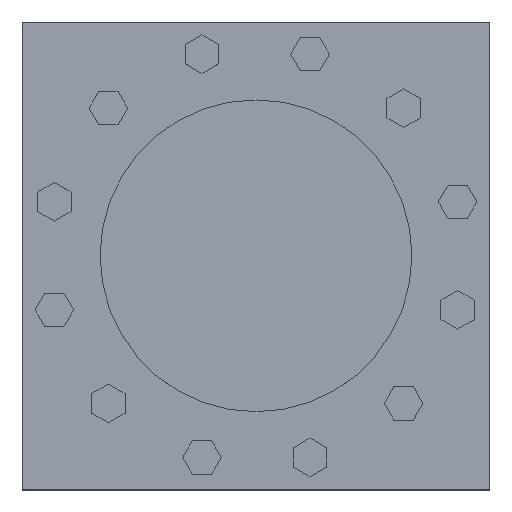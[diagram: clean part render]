
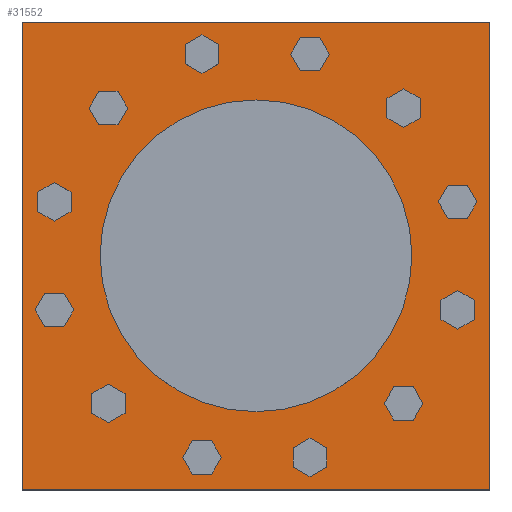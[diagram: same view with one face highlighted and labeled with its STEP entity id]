
A CAD part, top view. The second image highlights one B-rep face of the part: STEP entity #31552.
In plain terms, the highlighted planar face has unit normal (0, 0, 1).
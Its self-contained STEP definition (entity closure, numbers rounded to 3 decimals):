
#1652=LINE('',#45727,#3366);
#1656=LINE('',#45734,#3370);
#1659=LINE('',#45740,#3373);
#1661=LINE('',#45743,#3375);
#3366=VECTOR('',#37189,21.);
#3370=VECTOR('',#37195,21.);
#3373=VECTOR('',#37200,21.);
#3375=VECTOR('',#37204,21.);
#5082=PLANE('',#33735);
#5984=FACE_BOUND('',#8951,.T.);
#5985=FACE_BOUND('',#8952,.T.);
#5986=FACE_BOUND('',#8953,.T.);
#5987=FACE_BOUND('',#8954,.T.);
#5988=FACE_BOUND('',#8955,.T.);
#5989=FACE_BOUND('',#8956,.T.);
#5990=FACE_BOUND('',#8957,.T.);
#5991=FACE_BOUND('',#8958,.T.);
#5992=FACE_BOUND('',#8959,.T.);
#5993=FACE_BOUND('',#8960,.T.);
#5994=FACE_BOUND('',#8961,.T.);
#5995=FACE_BOUND('',#8962,.T.);
#6862=FACE_OUTER_BOUND('',#8950,.T.);
#8950=EDGE_LOOP('',(#20488,#20489,#20490,#20491));
#8951=EDGE_LOOP('',(#20492));
#8952=EDGE_LOOP('',(#20493));
#8953=EDGE_LOOP('',(#20494));
#8954=EDGE_LOOP('',(#20495));
#8955=EDGE_LOOP('',(#20496));
#8956=EDGE_LOOP('',(#20497));
#8957=EDGE_LOOP('',(#20498));
#8958=EDGE_LOOP('',(#20499));
#8959=EDGE_LOOP('',(#20500));
#8960=EDGE_LOOP('',(#20501));
#8961=EDGE_LOOP('',(#20502));
#8962=EDGE_LOOP('',(#20503));
#11872=CIRCLE('',#33696,0.563);
#11874=CIRCLE('',#33699,0.563);
#11876=CIRCLE('',#33702,0.563);
#11878=CIRCLE('',#33705,0.563);
#11880=CIRCLE('',#33708,0.563);
#11882=CIRCLE('',#33711,0.563);
#11884=CIRCLE('',#33714,0.563);
#11886=CIRCLE('',#33717,0.563);
#11888=CIRCLE('',#33720,0.563);
#11890=CIRCLE('',#33723,0.563);
#11892=CIRCLE('',#33726,0.563);
#11894=CIRCLE('',#33729,0.563);
#13392=VERTEX_POINT('',#45661);
#13394=VERTEX_POINT('',#45666);
#13396=VERTEX_POINT('',#45671);
#13398=VERTEX_POINT('',#45676);
#13400=VERTEX_POINT('',#45681);
#13402=VERTEX_POINT('',#45686);
#13404=VERTEX_POINT('',#45691);
#13406=VERTEX_POINT('',#45696);
#13408=VERTEX_POINT('',#45701);
#13410=VERTEX_POINT('',#45706);
#13412=VERTEX_POINT('',#45711);
#13414=VERTEX_POINT('',#45716);
#13418=VERTEX_POINT('',#45724);
#13419=VERTEX_POINT('',#45726);
#13421=VERTEX_POINT('',#45732);
#13423=VERTEX_POINT('',#45738);
#16270=EDGE_CURVE('',#13392,#13392,#11872,.T.);
#16272=EDGE_CURVE('',#13394,#13394,#11874,.T.);
#16274=EDGE_CURVE('',#13396,#13396,#11876,.T.);
#16276=EDGE_CURVE('',#13398,#13398,#11878,.T.);
#16278=EDGE_CURVE('',#13400,#13400,#11880,.T.);
#16280=EDGE_CURVE('',#13402,#13402,#11882,.T.);
#16282=EDGE_CURVE('',#13404,#13404,#11884,.T.);
#16284=EDGE_CURVE('',#13406,#13406,#11886,.T.);
#16286=EDGE_CURVE('',#13408,#13408,#11888,.T.);
#16288=EDGE_CURVE('',#13410,#13410,#11890,.T.);
#16290=EDGE_CURVE('',#13412,#13412,#11892,.T.);
#16292=EDGE_CURVE('',#13414,#13414,#11894,.T.);
#16296=EDGE_CURVE('',#13418,#13419,#1652,.T.);
#16300=EDGE_CURVE('',#13421,#13418,#1656,.T.);
#16303=EDGE_CURVE('',#13423,#13421,#1659,.T.);
#16305=EDGE_CURVE('',#13419,#13423,#1661,.T.);
#20488=ORIENTED_EDGE('',*,*,#16305,.F.);
#20489=ORIENTED_EDGE('',*,*,#16296,.F.);
#20490=ORIENTED_EDGE('',*,*,#16300,.F.);
#20491=ORIENTED_EDGE('',*,*,#16303,.F.);
#20492=ORIENTED_EDGE('',*,*,#16270,.T.);
#20493=ORIENTED_EDGE('',*,*,#16272,.T.);
#20494=ORIENTED_EDGE('',*,*,#16274,.T.);
#20495=ORIENTED_EDGE('',*,*,#16276,.T.);
#20496=ORIENTED_EDGE('',*,*,#16278,.T.);
#20497=ORIENTED_EDGE('',*,*,#16280,.T.);
#20498=ORIENTED_EDGE('',*,*,#16282,.T.);
#20499=ORIENTED_EDGE('',*,*,#16284,.T.);
#20500=ORIENTED_EDGE('',*,*,#16286,.T.);
#20501=ORIENTED_EDGE('',*,*,#16288,.T.);
#20502=ORIENTED_EDGE('',*,*,#16290,.T.);
#20503=ORIENTED_EDGE('',*,*,#16292,.T.);
#31552=ADVANCED_FACE('',(#6862,#5984,#5985,#5986,#5987,#5988,#5989,#5990,
#5991,#5992,#5993,#5994,#5995),#5082,.F.);
#33696=AXIS2_PLACEMENT_3D('',#45662,#37115,#37116);
#33699=AXIS2_PLACEMENT_3D('',#45667,#37121,#37122);
#33702=AXIS2_PLACEMENT_3D('',#45672,#37127,#37128);
#33705=AXIS2_PLACEMENT_3D('',#45677,#37133,#37134);
#33708=AXIS2_PLACEMENT_3D('',#45682,#37139,#37140);
#33711=AXIS2_PLACEMENT_3D('',#45687,#37145,#37146);
#33714=AXIS2_PLACEMENT_3D('',#45692,#37151,#37152);
#33717=AXIS2_PLACEMENT_3D('',#45697,#37157,#37158);
#33720=AXIS2_PLACEMENT_3D('',#45702,#37163,#37164);
#33723=AXIS2_PLACEMENT_3D('',#45707,#37169,#37170);
#33726=AXIS2_PLACEMENT_3D('',#45712,#37175,#37176);
#33729=AXIS2_PLACEMENT_3D('',#45717,#37181,#37182);
#33735=AXIS2_PLACEMENT_3D('',#45744,#37205,#37206);
#37115=DIRECTION('center_axis',(0.,0.,
-1.));
#37116=DIRECTION('ref_axis',(0.866,0.5,0.));
#37121=DIRECTION('center_axis',(0.,0.,
-1.));
#37122=DIRECTION('ref_axis',(0.5,0.866,0.));
#37127=DIRECTION('center_axis',(0.,0.,
-1.));
#37128=DIRECTION('ref_axis',(0.,1.,0.));
#37133=DIRECTION('center_axis',(0.,0.,
-1.));
#37134=DIRECTION('ref_axis',(-0.5,0.866,0.));
#37139=DIRECTION('center_axis',(0.,0.,
-1.));
#37140=DIRECTION('ref_axis',(-0.866,0.5,0.));
#37145=DIRECTION('center_axis',(0.,0.,
-1.));
#37146=DIRECTION('ref_axis',(-1.,0.,0.));
#37151=DIRECTION('center_axis',(0.,0.,
-1.));
#37152=DIRECTION('ref_axis',(-0.866,-0.5,0.));
#37157=DIRECTION('center_axis',(0.,0.,
-1.));
#37158=DIRECTION('ref_axis',(-0.5,-0.866,0.));
#37163=DIRECTION('center_axis',(0.,0.,
-1.));
#37164=DIRECTION('ref_axis',(0.,-1.,0.));
#37169=DIRECTION('center_axis',(0.,0.,
-1.));
#37170=DIRECTION('ref_axis',(0.5,-0.866,0.));
#37175=DIRECTION('center_axis',(0.,0.,
-1.));
#37176=DIRECTION('ref_axis',(0.866,-0.5,0.));
#37181=DIRECTION('center_axis',(0.,0.,
-1.));
#37182=DIRECTION('ref_axis',(1.,0.,0.));
#37189=DIRECTION('',(0.,1.,0.));
#37195=DIRECTION('',(-1.,0.,0.));
#37200=DIRECTION('',(0.,-1.,0.));
#37204=DIRECTION('',(1.,0.,0.));
#37205=DIRECTION('center_axis',(0.,0.,
-1.));
#37206=DIRECTION('ref_axis',(1.,0.,0.));
#45661=CARTESIAN_POINT('',(6.142,-6.91,9.5));
#45662=CARTESIAN_POINT('Origin',(6.629,-6.629,9.5));
#45666=CARTESIAN_POINT('',(8.774,-2.914,9.5));
#45667=CARTESIAN_POINT('Origin',(9.056,-2.426,9.5));
#45671=CARTESIAN_POINT('',(9.056,1.864,9.5));
#45672=CARTESIAN_POINT('Origin',(9.056,2.426,9.5));
#45676=CARTESIAN_POINT('',(6.91,6.142,9.5));
#45677=CARTESIAN_POINT('Origin',(6.629,6.629,9.5));
#45681=CARTESIAN_POINT('',(2.914,8.774,9.5));
#45682=CARTESIAN_POINT('Origin',(2.426,9.056,9.5));
#45686=CARTESIAN_POINT('',(-1.864,9.056,9.5));
#45687=CARTESIAN_POINT('Origin',(-2.426,9.056,9.5));
#45691=CARTESIAN_POINT('',(-6.142,6.91,9.5));
#45692=CARTESIAN_POINT('Origin',(-6.629,6.629,9.5));
#45696=CARTESIAN_POINT('',(-8.774,2.914,9.5));
#45697=CARTESIAN_POINT('Origin',(-9.056,2.426,9.5));
#45701=CARTESIAN_POINT('',(-9.056,-1.864,9.5));
#45702=CARTESIAN_POINT('Origin',(-9.056,-2.426,9.5));
#45706=CARTESIAN_POINT('',(-6.91,-6.142,9.5));
#45707=CARTESIAN_POINT('Origin',(-6.629,-6.629,9.5));
#45711=CARTESIAN_POINT('',(-2.914,-8.774,9.5));
#45712=CARTESIAN_POINT('Origin',(-2.426,-9.056,9.5));
#45716=CARTESIAN_POINT('',(1.864,-9.056,9.5));
#45717=CARTESIAN_POINT('Origin',(2.426,-9.056,9.5));
#45724=CARTESIAN_POINT('',(-10.5,-10.5,9.5));
#45726=CARTESIAN_POINT('',(-10.5,10.5,9.5));
#45727=CARTESIAN_POINT('',(-10.5,-10.5,9.5));
#45732=CARTESIAN_POINT('',(10.5,-10.5,9.5));
#45734=CARTESIAN_POINT('',(10.5,-10.5,9.5));
#45738=CARTESIAN_POINT('',(10.5,10.5,9.5));
#45740=CARTESIAN_POINT('',(10.5,10.5,9.5));
#45743=CARTESIAN_POINT('',(-10.5,10.5,9.5));
#45744=CARTESIAN_POINT('Origin',(0.,0.,9.5));
